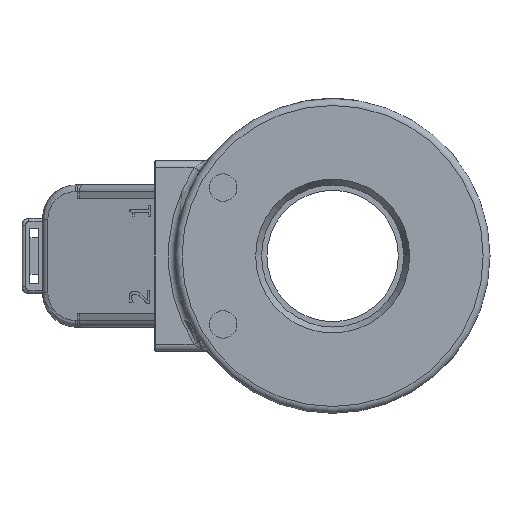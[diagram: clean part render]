
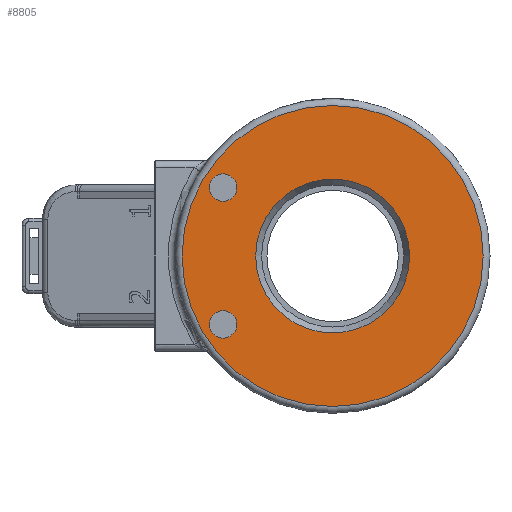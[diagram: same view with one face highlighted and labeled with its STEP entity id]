
A CAD part, left-side view. The second image highlights one B-rep face of the part: STEP entity #8805.
In plain terms, the highlighted planar face has unit normal (-1, 0, 0).
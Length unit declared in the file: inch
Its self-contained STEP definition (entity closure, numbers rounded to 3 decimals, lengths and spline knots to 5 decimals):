
#484=PLANE('',#9431);
#532=FACE_BOUND('',#1552,.T.);
#533=FACE_BOUND('',#1553,.T.);
#534=FACE_BOUND('',#1554,.T.);
#1019=FACE_OUTER_BOUND('',#1551,.T.);
#1551=EDGE_LOOP('',(#8202,#8203));
#1552=EDGE_LOOP('',(#8204));
#1553=EDGE_LOOP('',(#8205));
#1554=EDGE_LOOP('',(#8206,#8207));
#1671=CIRCLE('',#9204,0.07874);
#1673=CIRCLE('',#9208,0.07874);
#1761=CIRCLE('',#9411,0.44291);
#1762=CIRCLE('',#9412,0.44291);
#1772=CIRCLE('',#9428,0.86614);
#1774=CIRCLE('',#9430,0.86614);
#4093=VERTEX_POINT('',#18009);
#4095=VERTEX_POINT('',#18016);
#4311=VERTEX_POINT('',#19055);
#4312=VERTEX_POINT('',#19057);
#4321=VERTEX_POINT('',#19085);
#4322=VERTEX_POINT('',#19086);
#5260=EDGE_CURVE('',#4093,#4093,#1671,.T.);
#5263=EDGE_CURVE('',#4095,#4095,#1673,.T.);
#5602=EDGE_CURVE('',#4312,#4311,#1761,.T.);
#5603=EDGE_CURVE('',#4311,#4312,#1762,.T.);
#5615=EDGE_CURVE('',#4321,#4322,#1772,.T.);
#5617=EDGE_CURVE('',#4322,#4321,#1774,.T.);
#8202=ORIENTED_EDGE('',*,*,#5615,.F.);
#8203=ORIENTED_EDGE('',*,*,#5617,.F.);
#8204=ORIENTED_EDGE('',*,*,#5260,.T.);
#8205=ORIENTED_EDGE('',*,*,#5263,.T.);
#8206=ORIENTED_EDGE('',*,*,#5602,.T.);
#8207=ORIENTED_EDGE('',*,*,#5603,.T.);
#8805=ADVANCED_FACE('',(#1019,#532,#533,#534),#484,.F.);
#9204=AXIS2_PLACEMENT_3D('',#18010,#10653,#10654);
#9208=AXIS2_PLACEMENT_3D('',#18017,#10662,#10663);
#9411=AXIS2_PLACEMENT_3D('',#19058,#11283,#11284);
#9412=AXIS2_PLACEMENT_3D('',#19059,#11285,#11286);
#9428=AXIS2_PLACEMENT_3D('',#19087,#11319,#11320);
#9430=AXIS2_PLACEMENT_3D('',#19089,#11323,#11324);
#9431=AXIS2_PLACEMENT_3D('',#19090,#11325,#11326);
#10653=DIRECTION('center_axis',(1.,0.,0.));
#10654=DIRECTION('ref_axis',(0.,0.,-1.));
#10662=DIRECTION('center_axis',(1.,0.,0.));
#10663=DIRECTION('ref_axis',(0.,0.,-1.));
#11283=DIRECTION('center_axis',(1.,0.,0.));
#11284=DIRECTION('ref_axis',(0.,1.,0.));
#11285=DIRECTION('center_axis',(1.,0.,0.));
#11286=DIRECTION('ref_axis',(0.,1.,0.));
#11319=DIRECTION('center_axis',(1.,0.,0.));
#11320=DIRECTION('ref_axis',(0.,-1.,0.));
#11323=DIRECTION('center_axis',(1.,0.,0.));
#11324=DIRECTION('ref_axis',(0.,-1.,0.));
#11325=DIRECTION('center_axis',(1.,0.,0.));
#11326=DIRECTION('ref_axis',(0.,0.,-1.));
#18009=CARTESIAN_POINT('',(-1.1063,0.62992,-0.31496));
#18010=CARTESIAN_POINT('Origin',(-1.1063,0.62992,-0.3937));
#18016=CARTESIAN_POINT('',(-1.1063,0.62992,0.47244));
#18017=CARTESIAN_POINT('Origin',(-1.1063,0.62992,0.3937));
#19055=CARTESIAN_POINT('',(-1.1063,-0.44291,0.));
#19057=CARTESIAN_POINT('',(-1.1063,0.44291,0.));
#19058=CARTESIAN_POINT('Origin',(-1.1063,0.,0.));
#19059=CARTESIAN_POINT('Origin',(-1.1063,0.,0.));
#19085=CARTESIAN_POINT('',(-1.1063,0.86614,0.));
#19086=CARTESIAN_POINT('',(-1.1063,0.,-0.86614));
#19087=CARTESIAN_POINT('Origin',(-1.1063,0.,0.));
#19089=CARTESIAN_POINT('Origin',(-1.1063,0.,0.));
#19090=CARTESIAN_POINT('Origin',(-1.1063,0.,
0.));
